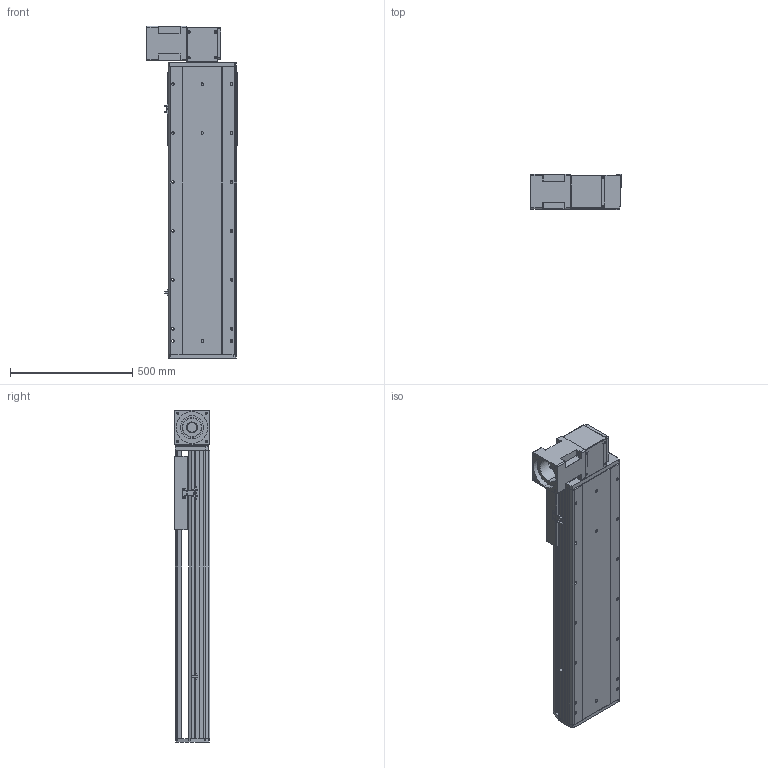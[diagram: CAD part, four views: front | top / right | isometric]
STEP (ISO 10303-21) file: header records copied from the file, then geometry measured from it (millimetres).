
FILE_DESCRIPTION (( 'STEP AP214' ), '1' );
FILE_NAME ('RTB28R-XX-750-BR-M100-XX-C4.STEP', '2025-12-22T01:09:01', ( '' ), ( '' ), 'SwSTEP 2.0', 'SolidWorks 2018', '' );
FILE_SCHEMA (( 'AUTOMOTIVE_DESIGN' ));
Length unit declared in the file: millimetre
Products named in the file (4): RTB28S-GY-008^RTB28R-XX-XX-BR-M100-XX-C4; RTB28S-GY-004^RTB28R-XX-XX-BR-M100-XX-C4; RTB28R-XX-750-BR-M100-XX-C4; RTB28S-GY-011^RTB28R-XX-XX-BR-M100-XX-C4
Assembly tree (3 placements, depth 2):
  RTB28R-XX-750-BR-M100-XX-C4
    RTB28S-GY-011^RTB28R-XX-XX-BR-M100-XX-C4
    RTB28S-GY-004^RTB28R-XX-XX-BR-M100-XX-C4
    RTB28S-GY-008^RTB28R-XX-XX-BR-M100-XX-C4
Bounding box: 370 x 145 x 1357 mm (x, y, z)
Volume: 25670179.7 mm3; surface area: 2507737.6 mm2
Topology: 3 solids, 4 shells, 978 faces, 2580 edges, 1656 vertices
Faces by surface type: plane 454, cylinder 353, bspline 87, cone 80, torus 4
Entity records: 41716 total; most frequent: CARTESIAN_POINT 11095, ORIENTED_EDGE 5096, DIRECTION 4932, EDGE_CURVE 2548, AXIS2_PLACEMENT_3D 1685, VERTEX_POINT 1656, VECTOR 1562, LINE 1562
